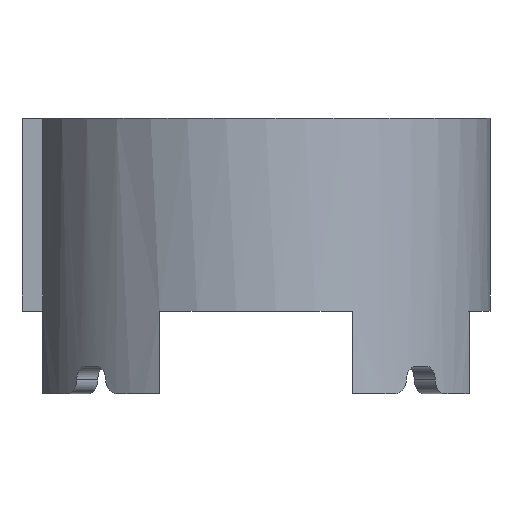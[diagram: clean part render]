
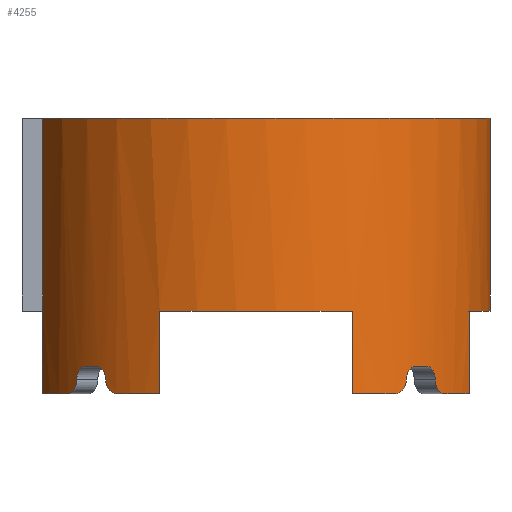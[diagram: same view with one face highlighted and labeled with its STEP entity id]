
A CAD part, front view. The second image highlights one B-rep face of the part: STEP entity #4255.
In plain terms, the highlighted cylindrical face has radius 17 mm (diameter 34 mm), a partial arc.
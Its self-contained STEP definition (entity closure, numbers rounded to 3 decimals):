
#175=CARTESIAN_POINT('Vertex',(-15.492,-7.,17.)) ;
#178=CARTESIAN_POINT('Axis2P3D Location',(0.,0.,17.)) ;
#182=CARTESIAN_POINT('Vertex',(17.,0.,17.)) ;
#726=CARTESIAN_POINT('Axis2P3D Location',(0.,0.,8.5)) ;
#731=CARTESIAN_POINT('Line Origine',(17.,0.,7.)) ;
#735=CARTESIAN_POINT('Vertex',(17.,0.,3.)) ;
#3428=CARTESIAN_POINT('Line Origine',(7.,-15.492,0.)) ;
#3432=CARTESIAN_POINT('Vertex',(7.,-15.492,-3.)) ;
#3434=CARTESIAN_POINT('Vertex',(7.,-15.492,3.)) ;
#3486=CARTESIAN_POINT('Vertex',(15.492,-7.,3.)) ;
#3489=CARTESIAN_POINT('Line Origine',(15.492,-7.,0.)) ;
#3493=CARTESIAN_POINT('Vertex',(15.492,-7.,-3.)) ;
#3510=CARTESIAN_POINT('Line Origine',(-15.492,-7.,0.)) ;
#3514=CARTESIAN_POINT('Vertex',(-15.492,-7.,-3.)) ;
#3516=CARTESIAN_POINT('Vertex',(-15.492,-7.,3.)) ;
#3571=CARTESIAN_POINT('Vertex',(-7.,-15.492,3.)) ;
#3574=CARTESIAN_POINT('Line Origine',(-7.,-15.492,0.)) ;
#3578=CARTESIAN_POINT('Vertex',(-7.,-15.492,-3.)) ;
#3600=CARTESIAN_POINT('Line Origine',(-15.492,-7.,10.)) ;
#3612=CARTESIAN_POINT('Axis2P3D Location',(0.,0.,3.)) ;
#3617=CARTESIAN_POINT('Axis2P3D Location',(0.,0.,3.)) ;
#3835=CARTESIAN_POINT('Axis2P3D Location',(0.,0.,-3.)) ;
#3839=CARTESIAN_POINT('Vertex',(-10.142,-13.643,-3.)) ;
#3860=CARTESIAN_POINT('Control Point',(-10.142,-13.643,-3.)) ;
#3861=CARTESIAN_POINT('Control Point',(-10.458,-13.409,-3.)) ;
#3862=CARTESIAN_POINT('Control Point',(-10.768,-13.159,-2.791)) ;
#3863=CARTESIAN_POINT('Control Point',(-10.927,-13.023,-2.393)) ;
#3864=CARTESIAN_POINT('Control Point',(-10.927,-13.023,-2.)) ;
#3865=CARTESIAN_POINT('Vertex',(-10.927,-13.023,-2.)) ;
#3889=CARTESIAN_POINT('Axis2P3D Location',(0.,0.,-3.)) ;
#3893=CARTESIAN_POINT('Vertex',(-13.643,-10.142,-3.)) ;
#3933=CARTESIAN_POINT('Vertex',(-13.023,-10.927,-2.)) ;
#3937=CARTESIAN_POINT('Control Point',(-13.643,-10.142,-3.)) ;
#3938=CARTESIAN_POINT('Control Point',(-13.409,-10.458,-3.)) ;
#3939=CARTESIAN_POINT('Control Point',(-13.159,-10.768,-2.791)) ;
#3940=CARTESIAN_POINT('Control Point',(-13.023,-10.927,-2.393)) ;
#3941=CARTESIAN_POINT('Control Point',(-13.023,-10.927,-2.)) ;
#3968=CARTESIAN_POINT('Vertex',(-12.357,-11.675,-1.)) ;
#3972=CARTESIAN_POINT('Control Point',(-12.357,-11.675,-1.)) ;
#3973=CARTESIAN_POINT('Control Point',(-12.627,-11.389,-1.)) ;
#3974=CARTESIAN_POINT('Control Point',(-12.89,-11.09,-1.209)) ;
#3975=CARTESIAN_POINT('Control Point',(-13.023,-10.927,-1.607)) ;
#3976=CARTESIAN_POINT('Control Point',(-13.023,-10.927,-2.)) ;
#3990=CARTESIAN_POINT('Axis2P3D Location',(0.,0.,-1.)) ;
#3994=CARTESIAN_POINT('Vertex',(-11.675,-12.357,-1.)) ;
#4022=CARTESIAN_POINT('Control Point',(-11.675,-12.357,-1.)) ;
#4023=CARTESIAN_POINT('Control Point',(-11.389,-12.627,-1.)) ;
#4024=CARTESIAN_POINT('Control Point',(-11.09,-12.89,-1.209)) ;
#4025=CARTESIAN_POINT('Control Point',(-10.927,-13.023,-1.607)) ;
#4026=CARTESIAN_POINT('Control Point',(-10.927,-13.023,-2.)) ;
#4066=CARTESIAN_POINT('Axis2P3D Location',(0.,0.,-3.)) ;
#4070=CARTESIAN_POINT('Vertex',(13.643,-10.142,-3.)) ;
#4091=CARTESIAN_POINT('Control Point',(13.643,-10.142,-3.)) ;
#4092=CARTESIAN_POINT('Control Point',(13.409,-10.458,-3.)) ;
#4093=CARTESIAN_POINT('Control Point',(13.159,-10.768,-2.791)) ;
#4094=CARTESIAN_POINT('Control Point',(13.023,-10.927,-2.393)) ;
#4095=CARTESIAN_POINT('Control Point',(13.023,-10.927,-2.)) ;
#4096=CARTESIAN_POINT('Vertex',(13.023,-10.927,-2.)) ;
#4126=CARTESIAN_POINT('Control Point',(12.357,-11.675,-1.)) ;
#4127=CARTESIAN_POINT('Control Point',(12.627,-11.389,-1.)) ;
#4128=CARTESIAN_POINT('Control Point',(12.89,-11.09,-1.209)) ;
#4129=CARTESIAN_POINT('Control Point',(13.023,-10.927,-1.607)) ;
#4130=CARTESIAN_POINT('Control Point',(13.023,-10.927,-2.)) ;
#4131=CARTESIAN_POINT('Vertex',(12.357,-11.675,-1.)) ;
#4155=CARTESIAN_POINT('Axis2P3D Location',(0.,0.,-3.)) ;
#4159=CARTESIAN_POINT('Vertex',(10.142,-13.643,-3.)) ;
#4199=CARTESIAN_POINT('Vertex',(10.927,-13.023,-2.)) ;
#4203=CARTESIAN_POINT('Control Point',(10.142,-13.643,-3.)) ;
#4204=CARTESIAN_POINT('Control Point',(10.458,-13.409,-3.)) ;
#4205=CARTESIAN_POINT('Control Point',(10.768,-13.159,-2.791)) ;
#4206=CARTESIAN_POINT('Control Point',(10.927,-13.023,-2.393)) ;
#4207=CARTESIAN_POINT('Control Point',(10.927,-13.023,-2.)) ;
#4216=CARTESIAN_POINT('Axis2P3D Location',(0.,0.,-1.)) ;
#4220=CARTESIAN_POINT('Vertex',(11.675,-12.357,-1.)) ;
#4224=CARTESIAN_POINT('Control Point',(11.675,-12.357,-1.)) ;
#4225=CARTESIAN_POINT('Control Point',(11.389,-12.627,-1.)) ;
#4226=CARTESIAN_POINT('Control Point',(11.09,-12.89,-1.209)) ;
#4227=CARTESIAN_POINT('Control Point',(10.927,-13.023,-1.607)) ;
#4228=CARTESIAN_POINT('Control Point',(10.927,-13.023,-2.)) ;
#179=DIRECTION('Axis2P3D Direction',(0.,0.,1.)) ;
#727=DIRECTION('Axis2P3D Direction',(0.,0.,1.)) ;
#728=DIRECTION('Axis2P3D XDirection',(1.,0.,0.)) ;
#732=DIRECTION('Vector Direction',(0.,0.,1.)) ;
#3429=DIRECTION('Vector Direction',(0.,0.,1.)) ;
#3490=DIRECTION('Vector Direction',(0.,0.,1.)) ;
#3511=DIRECTION('Vector Direction',(0.,0.,1.)) ;
#3575=DIRECTION('Vector Direction',(0.,0.,1.)) ;
#3601=DIRECTION('Vector Direction',(0.,0.,-1.)) ;
#3613=DIRECTION('Axis2P3D Direction',(0.,0.,-1.)) ;
#3618=DIRECTION('Axis2P3D Direction',(0.,0.,-1.)) ;
#3836=DIRECTION('Axis2P3D Direction',(0.,0.,-1.)) ;
#3890=DIRECTION('Axis2P3D Direction',(0.,0.,-1.)) ;
#3991=DIRECTION('Axis2P3D Direction',(0.,0.,-1.)) ;
#4067=DIRECTION('Axis2P3D Direction',(0.,0.,-1.)) ;
#4156=DIRECTION('Axis2P3D Direction',(0.,0.,-1.)) ;
#4217=DIRECTION('Axis2P3D Direction',(0.,0.,1.)) ;
#180=AXIS2_PLACEMENT_3D('Circle Axis2P3D',#178,#179,$) ;
#729=AXIS2_PLACEMENT_3D('Cylinder Axis2P3D',#726,#727,#728) ;
#3614=AXIS2_PLACEMENT_3D('Circle Axis2P3D',#3612,#3613,$) ;
#3619=AXIS2_PLACEMENT_3D('Circle Axis2P3D',#3617,#3618,$) ;
#3837=AXIS2_PLACEMENT_3D('Circle Axis2P3D',#3835,#3836,$) ;
#3891=AXIS2_PLACEMENT_3D('Circle Axis2P3D',#3889,#3890,$) ;
#3992=AXIS2_PLACEMENT_3D('Circle Axis2P3D',#3990,#3991,$) ;
#4068=AXIS2_PLACEMENT_3D('Circle Axis2P3D',#4066,#4067,$) ;
#4157=AXIS2_PLACEMENT_3D('Circle Axis2P3D',#4155,#4156,$) ;
#4218=AXIS2_PLACEMENT_3D('Circle Axis2P3D',#4216,#4217,$) ;
#4231=ORIENTED_EDGE('',*,*,#4222,.F.) ;
#4232=ORIENTED_EDGE('',*,*,#4133,.T.) ;
#4233=ORIENTED_EDGE('',*,*,#4098,.F.) ;
#4234=ORIENTED_EDGE('',*,*,#4072,.F.) ;
#4235=ORIENTED_EDGE('',*,*,#3495,.T.) ;
#4236=ORIENTED_EDGE('',*,*,#3616,.F.) ;
#4237=ORIENTED_EDGE('',*,*,#737,.T.) ;
#4238=ORIENTED_EDGE('',*,*,#184,.F.) ;
#4239=ORIENTED_EDGE('',*,*,#3604,.T.) ;
#4240=ORIENTED_EDGE('',*,*,#3518,.F.) ;
#4241=ORIENTED_EDGE('',*,*,#3895,.F.) ;
#4242=ORIENTED_EDGE('',*,*,#3942,.F.) ;
#4243=ORIENTED_EDGE('',*,*,#3977,.T.) ;
#4244=ORIENTED_EDGE('',*,*,#3996,.F.) ;
#4245=ORIENTED_EDGE('',*,*,#4027,.T.) ;
#4246=ORIENTED_EDGE('',*,*,#3867,.F.) ;
#4247=ORIENTED_EDGE('',*,*,#3841,.F.) ;
#4248=ORIENTED_EDGE('',*,*,#3580,.T.) ;
#4249=ORIENTED_EDGE('',*,*,#3621,.F.) ;
#4250=ORIENTED_EDGE('',*,*,#3436,.F.) ;
#4251=ORIENTED_EDGE('',*,*,#4161,.F.) ;
#4252=ORIENTED_EDGE('',*,*,#4208,.F.) ;
#4253=ORIENTED_EDGE('',*,*,#4229,.T.) ;
#733=VECTOR('Line Direction',#732,1.) ;
#3430=VECTOR('Line Direction',#3429,1.) ;
#3491=VECTOR('Line Direction',#3490,1.) ;
#3512=VECTOR('Line Direction',#3511,1.) ;
#3576=VECTOR('Line Direction',#3575,1.) ;
#3602=VECTOR('Line Direction',#3601,1.) ;
#4255=ADVANCED_FACE('\X2\96F64EF651E04F554F53\X0\',(#4254),#730,.T.) ;
#3859=B_SPLINE_CURVE_WITH_KNOTS('',4,(#3860,#3861,#3862,#3863,#3864),.UNSPECIFIED.,.F.,.U.,(5,5),(0.,2.222),.UNSPECIFIED.) ;
#3936=B_SPLINE_CURVE_WITH_KNOTS('',4,(#3937,#3938,#3939,#3940,#3941),.UNSPECIFIED.,.F.,.U.,(5,5),(0.,2.222),.UNSPECIFIED.) ;
#3971=B_SPLINE_CURVE_WITH_KNOTS('',4,(#3972,#3973,#3974,#3975,#3976),.UNSPECIFIED.,.F.,.U.,(5,5),(0.,2.222),.UNSPECIFIED.) ;
#4021=B_SPLINE_CURVE_WITH_KNOTS('',4,(#4022,#4023,#4024,#4025,#4026),.UNSPECIFIED.,.F.,.U.,(5,5),(0.,2.222),.UNSPECIFIED.) ;
#4090=B_SPLINE_CURVE_WITH_KNOTS('',4,(#4091,#4092,#4093,#4094,#4095),.UNSPECIFIED.,.F.,.U.,(5,5),(0.,2.222),.UNSPECIFIED.) ;
#4125=B_SPLINE_CURVE_WITH_KNOTS('',4,(#4126,#4127,#4128,#4129,#4130),.UNSPECIFIED.,.F.,.U.,(5,5),(0.,2.222),.UNSPECIFIED.) ;
#4202=B_SPLINE_CURVE_WITH_KNOTS('',4,(#4203,#4204,#4205,#4206,#4207),.UNSPECIFIED.,.F.,.U.,(5,5),(0.,2.222),.UNSPECIFIED.) ;
#4223=B_SPLINE_CURVE_WITH_KNOTS('',4,(#4224,#4225,#4226,#4227,#4228),.UNSPECIFIED.,.F.,.U.,(5,5),(0.,2.222),.UNSPECIFIED.) ;
#181=CIRCLE('generated circle',#180,17.) ;
#3615=CIRCLE('generated circle',#3614,17.) ;
#3620=CIRCLE('generated circle',#3619,17.) ;
#3838=CIRCLE('generated circle',#3837,17.) ;
#3892=CIRCLE('generated circle',#3891,17.) ;
#3993=CIRCLE('generated circle',#3992,17.) ;
#4069=CIRCLE('generated circle',#4068,17.) ;
#4158=CIRCLE('generated circle',#4157,17.) ;
#4219=CIRCLE('generated circle',#4218,17.) ;
#730=CYLINDRICAL_SURFACE('generated cylinder',#729,17.) ;
#184=EDGE_CURVE('',#176,#183,#181,.T.) ;
#737=EDGE_CURVE('',#736,#183,#734,.T.) ;
#3436=EDGE_CURVE('',#3433,#3435,#3431,.T.) ;
#3495=EDGE_CURVE('',#3494,#3487,#3492,.T.) ;
#3518=EDGE_CURVE('',#3515,#3517,#3513,.T.) ;
#3580=EDGE_CURVE('',#3579,#3572,#3577,.T.) ;
#3604=EDGE_CURVE('',#176,#3517,#3603,.T.) ;
#3616=EDGE_CURVE('',#736,#3487,#3615,.T.) ;
#3621=EDGE_CURVE('',#3435,#3572,#3620,.T.) ;
#3841=EDGE_CURVE('',#3579,#3840,#3838,.T.) ;
#3867=EDGE_CURVE('',#3840,#3866,#3859,.T.) ;
#3895=EDGE_CURVE('',#3894,#3515,#3892,.T.) ;
#3942=EDGE_CURVE('',#3934,#3894,#3936,.F.) ;
#3977=EDGE_CURVE('',#3934,#3969,#3971,.F.) ;
#3996=EDGE_CURVE('',#3995,#3969,#3993,.T.) ;
#4027=EDGE_CURVE('',#3995,#3866,#4021,.T.) ;
#4072=EDGE_CURVE('',#3494,#4071,#4069,.T.) ;
#4098=EDGE_CURVE('',#4071,#4097,#4090,.T.) ;
#4133=EDGE_CURVE('',#4132,#4097,#4125,.T.) ;
#4161=EDGE_CURVE('',#4160,#3433,#4158,.T.) ;
#4208=EDGE_CURVE('',#4200,#4160,#4202,.F.) ;
#4222=EDGE_CURVE('',#4132,#4221,#4219,.F.) ;
#4229=EDGE_CURVE('',#4200,#4221,#4223,.F.) ;
#4230=EDGE_LOOP('',(#4231,#4232,#4233,#4234,#4235,#4236,#4237,#4238,#4239,#4240,#4241,#4242,#4243,#4244,#4245,#4246,#4247,#4248,#4249,#4250,#4251,#4252,#4253)) ;
#4254=FACE_OUTER_BOUND('',#4230,.T.) ;
#734=LINE('Line',#731,#733) ;
#3431=LINE('Line',#3428,#3430) ;
#3492=LINE('Line',#3489,#3491) ;
#3513=LINE('Line',#3510,#3512) ;
#3577=LINE('Line',#3574,#3576) ;
#3603=LINE('Line',#3600,#3602) ;
#176=VERTEX_POINT('',#175) ;
#183=VERTEX_POINT('',#182) ;
#736=VERTEX_POINT('',#735) ;
#3433=VERTEX_POINT('',#3432) ;
#3435=VERTEX_POINT('',#3434) ;
#3487=VERTEX_POINT('',#3486) ;
#3494=VERTEX_POINT('',#3493) ;
#3515=VERTEX_POINT('',#3514) ;
#3517=VERTEX_POINT('',#3516) ;
#3572=VERTEX_POINT('',#3571) ;
#3579=VERTEX_POINT('',#3578) ;
#3840=VERTEX_POINT('',#3839) ;
#3866=VERTEX_POINT('',#3865) ;
#3894=VERTEX_POINT('',#3893) ;
#3934=VERTEX_POINT('',#3933) ;
#3969=VERTEX_POINT('',#3968) ;
#3995=VERTEX_POINT('',#3994) ;
#4071=VERTEX_POINT('',#4070) ;
#4097=VERTEX_POINT('',#4096) ;
#4132=VERTEX_POINT('',#4131) ;
#4160=VERTEX_POINT('',#4159) ;
#4200=VERTEX_POINT('',#4199) ;
#4221=VERTEX_POINT('',#4220) ;
